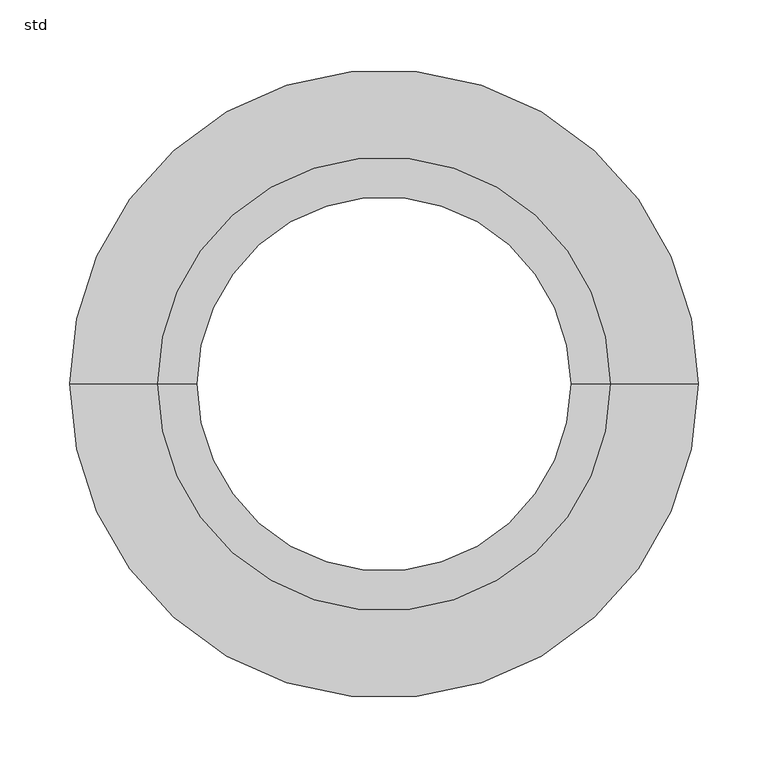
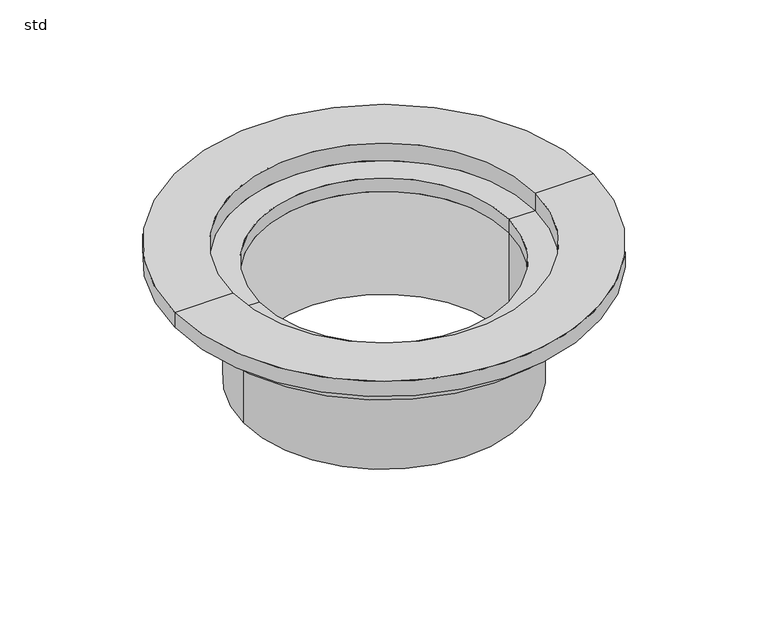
"""IFC4 building model written with IfcOpenShell, lengths in millimetres: pipe fitting geometry, Z_PIF_UN_Q-Bic_Plus_Telescopic_Frame_Wavin_(nested) : std."""

from ifc_helpers import new_model, si_unit, point, frame, origin, origin_with_axes, origin_2d, place, context, project, spatial, polyline, circle_curve, trimmed, segment, composite_curve, outline, extrude, source, transform, mapped, element, save
from ifc_brep_helpers import plane_surface, cylinder_surface, revolved_surface, advanced_brep


def std_d7bb9f27(model_context):
    return source(origin(), model_context, "Body", "SolidModel", [
        advanced_brep(
        [(-205.0, 0.0, -17.0), (205.0, 0.0, -17.0), (205.0, 0.0, -35.0), (-205.0, 0.0, -35.0), (-225.0, 0.0, -17.0), (225.0, 0.0, -17.0), (-225.0, 0.0, 0.0), (225.0, 0.0, 0.0), (-162.5, 0.0, 0.0), (162.5, 0.0, 0.0), (-162.5, 0.0, -20.0), (162.5, 0.0, -20.0), (-134.0, 0.0, -20.0), (134.0, 0.0, -20.0), (-134.0, 0.0, -35.0), (134.0, 0.0, -35.0)],
        [
            (0, 1, circle_curve(frame((0.0, 0.0, -17.0), z_axis=(0.0, 0.0, -1.0), x_axis=(1.0, 0.0, 0.0)), 205.0)),
            (1, 2),
            (2, 3, circle_curve(frame((0.0, 0.0, -35.0), z_axis=(0.0, 0.0, 1.0), x_axis=(1.0, 0.0, 0.0)), 205.0)),
            (3, 0),
            (1, 0, circle_curve(frame((0.0, 0.0, -17.0), z_axis=(0.0, 0.0, -1.0), x_axis=(1.0, 0.0, 0.0)), 205.0)),
            (3, 2, circle_curve(frame((0.0, 0.0, -35.0), z_axis=(0.0, 0.0, 1.0), x_axis=(1.0, 0.0, 0.0)), 205.0)),
            (4, 5, circle_curve(frame((0.0, 0.0, -17.0), z_axis=(0.0, 0.0, -1.0), x_axis=(1.0, 0.0, 0.0)), 225.0)),
            (5, 1),
            (0, 4),
            (5, 4, circle_curve(frame((0.0, 0.0, -17.0), z_axis=(0.0, 0.0, -1.0), x_axis=(1.0, 0.0, 0.0)), 225.0)),
            (6, 7, circle_curve(frame((0.0, 0.0, 0.0), z_axis=(0.0, 0.0, -1.0), x_axis=(1.0, 0.0, 0.0)), 225.0)),
            (7, 5),
            (4, 6),
            (7, 6, circle_curve(frame((0.0, 0.0, 0.0), z_axis=(0.0, 0.0, -1.0), x_axis=(1.0, 0.0, 0.0)), 225.0)),
            (8, 9, circle_curve(frame((0.0, 0.0, 0.0), z_axis=(0.0, 0.0, -1.0), x_axis=(1.0, 0.0, 0.0)), 162.5)),
            (9, 7),
            (6, 8),
            (9, 8, circle_curve(frame((0.0, 0.0, 0.0), z_axis=(0.0, 0.0, -1.0), x_axis=(1.0, 0.0, 0.0)), 162.5)),
            (10, 11, circle_curve(frame((0.0, 0.0, -20.0), z_axis=(0.0, 0.0, -1.0), x_axis=(1.0, 0.0, 0.0)), 162.5)),
            (11, 9),
            (8, 10),
            (11, 10, circle_curve(frame((0.0, 0.0, -20.0), z_axis=(0.0, 0.0, -1.0), x_axis=(1.0, 0.0, 0.0)), 162.5)),
            (12, 13, circle_curve(frame((0.0, 0.0, -20.0), z_axis=(0.0, 0.0, -1.0), x_axis=(1.0, 0.0, 0.0)), 134.0)),
            (13, 11),
            (10, 12),
            (13, 12, circle_curve(frame((0.0, 0.0, -20.0), z_axis=(0.0, 0.0, -1.0), x_axis=(1.0, 0.0, 0.0)), 134.0)),
            (14, 15, circle_curve(frame((0.0, 0.0, -35.0), z_axis=(0.0, 0.0, -1.0), x_axis=(1.0, 0.0, 0.0)), 134.0)),
            (15, 13),
            (12, 14),
            (15, 14, circle_curve(frame((0.0, 0.0, -35.0), z_axis=(0.0, 0.0, -1.0), x_axis=(1.0, 0.0, 0.0)), 134.0)),
            (2, 15),
            (14, 3),
        ],
        [
            cylinder_surface(frame((0.0, 0.0, -381.0), z_axis=(0.0, 0.0, 1.0), x_axis=(1.0, 0.0, 0.0)), 205.0),
            plane_surface(frame((0.0, 0.0, -17.0), z_axis=(0.0, 0.0, -1.0), x_axis=(1.0, 0.0, 0.0))),
            cylinder_surface(frame((0.0, 0.0, -381.0), z_axis=(0.0, 0.0, 1.0), x_axis=(1.0, 0.0, 0.0)), 225.0),
            plane_surface(origin_with_axes()),
            revolved_surface(polyline([(162.5, 0.0, 0.0), (162.5, 0.0, -20.0)]), (0.0, 0.0, -381.0), (0.0, 0.0, 1.0)),
            plane_surface(frame((0.0, 0.0, -20.0), z_axis=(0.0, 0.0, 1.0), x_axis=(1.0, 0.0, 0.0))),
            revolved_surface(polyline([(134.0, 0.0, -20.0), (134.0, 0.0, -35.0)]), (0.0, 0.0, -381.0), (0.0, 0.0, 1.0)),
            plane_surface(frame((0.0, 0.0, -35.0), z_axis=(0.0, 0.0, -1.0), x_axis=(1.0, 0.0, 0.0))),
        ],
        [
            (0, [[1, 2, 3, 4]]),
            (0, [[5, -4, 6, -2]]),
            (1, [[7, 8, -1, 9]]),
            (1, [[10, -9, -5, -8]]),
            (2, [[11, 12, -7, 13]]),
            (2, [[14, -13, -10, -12]]),
            (3, [[15, 16, -11, 17]]),
            (3, [[18, -17, -14, -16]]),
            (4, [[19, 20, -15, 21]]),
            (4, [[22, -21, -18, -20]]),
            (5, [[23, 24, -19, 25]]),
            (5, [[26, -25, -22, -24]]),
            (6, [[27, 28, -23, 29]]),
            (6, [[30, -29, -26, -28]]),
            (7, [[-3, 31, -27, 32]]),
            (7, [[-6, -32, -30, -31]]),
        ],
    ),
        extrude(outline(composite_curve([segment(trimmed(circle_curve(origin_2d(), 150.5), [point((-150.5, 0.0))], [point((150.5, 0.0))], False, "CARTESIAN"), True, "CONTINUOUS"), segment(trimmed(circle_curve(origin_2d(), 150.5), [point((150.5, 0.0))], [point((-150.5, 0.0))], False, "CARTESIAN"), True, "CONTINUOUS")], self_intersect=False), holes=[composite_curve([segment(trimmed(circle_curve(origin_2d(), 134.0), [point((-134.0, 0.0))], [point((134.0, 0.0))], True, "CARTESIAN"), True, "CONTINUOUS"), segment(trimmed(circle_curve(origin_2d(), 134.0), [point((134.0, 0.0))], [point((-134.0, 0.0))], True, "CARTESIAN"), True, "CONTINUOUS")], self_intersect=False)]), frame((0.0, 0.0, -152.0), z_axis=(0.0, 0.0, 1.0), x_axis=(1.0, 0.0, 0.0)), (0.0, 0.0, 1.0), 117.0),
    ])


if __name__ == "__main__":
    model = new_model("IFC4")
    model_context = context("Model", 3, world=origin())
    ifc_project = project(units=[si_unit("LENGTHUNIT", "METRE", prefix="MILLI")], contexts=[model_context])
    site = spatial("IfcSite", under=ifc_project)
    building = spatial("IfcBuilding", under=site)
    placement = place(None, origin())
    std_shape = std_d7bb9f27(model_context)
    element("IfcPipeFitting", 1, ObjectType="Z_PIF_UN_Q-Bic_Plus_Telescopic_Frame_Wavin_(nested) : std", at=placement, inside=building, context=model_context, shape_type="MappedRepresentation", body=[
        mapped(std_shape, transform((0.0, 0.0, 0.0), x_axis=(1.0, 0.0, 0.0), y_axis=(0.0, 1.0, 0.0), z_axis=(0.0, 0.0, 1.0))),
    ])
    save(model, "model.ifc")
